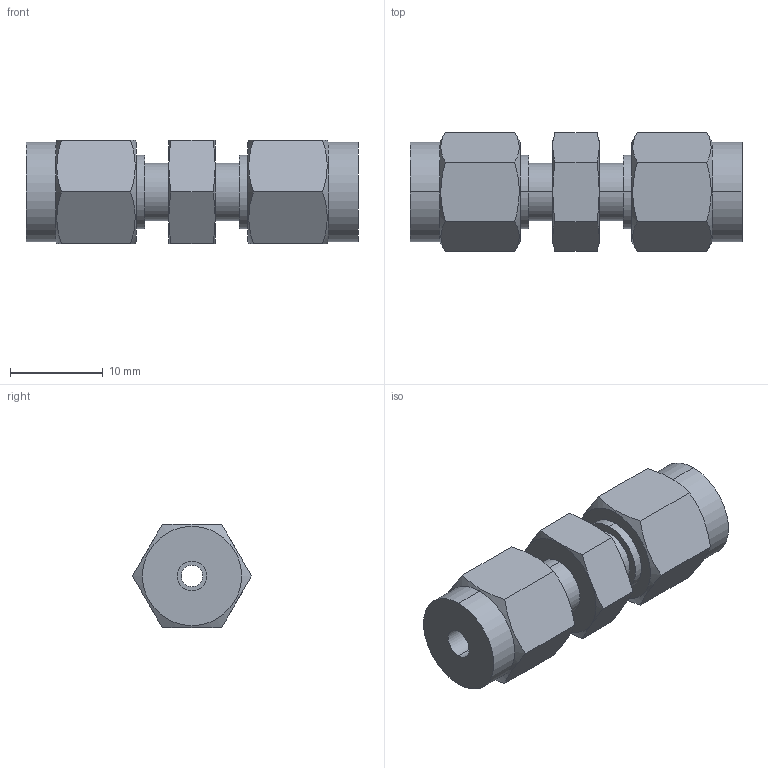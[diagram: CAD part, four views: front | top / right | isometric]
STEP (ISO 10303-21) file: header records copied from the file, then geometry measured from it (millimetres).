
FILE_DESCRIPTION (( 'STEP AP203' ), '1' );
FILE_NAME ('DUA02 SS.STEP', '2009-09-08T10:21:45', ( ' ' ), ( '' ), 'SwSTEP 2.0', 'SolidWorks 2008', '' );
FILE_SCHEMA (( 'CONFIG_CONTROL_DESIGN' ));
Length unit declared in the file: millimetre
Products named in the file (1): DUA02 SS
Bounding box: 35.8 x 12.83 x 11.11 mm (x, y, z)
Volume: 2955.7 mm3; surface area: 2026.8 mm2
Topology: 1 solids, 1 shells, 66 faces, 152 edges, 96 vertices
Faces by surface type: plane 28, cone 20, cylinder 18
Entity records: 2133 total; most frequent: CARTESIAN_POINT 619, ORIENTED_EDGE 304, DIRECTION 282, EDGE_CURVE 152, AXIS2_PLACEMENT_3D 119, VERTEX_POINT 96, EDGE_LOOP 76, ADVANCED_FACE 66
